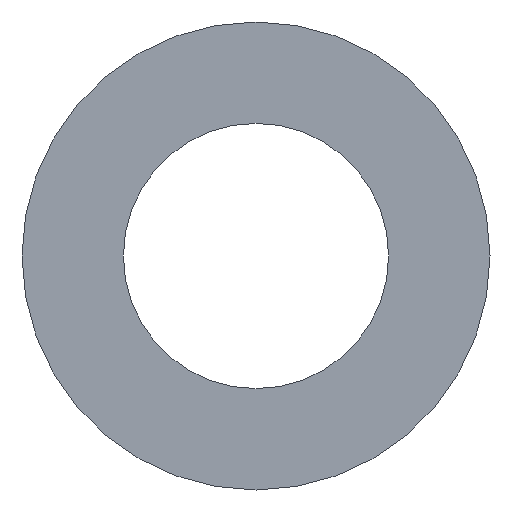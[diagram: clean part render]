
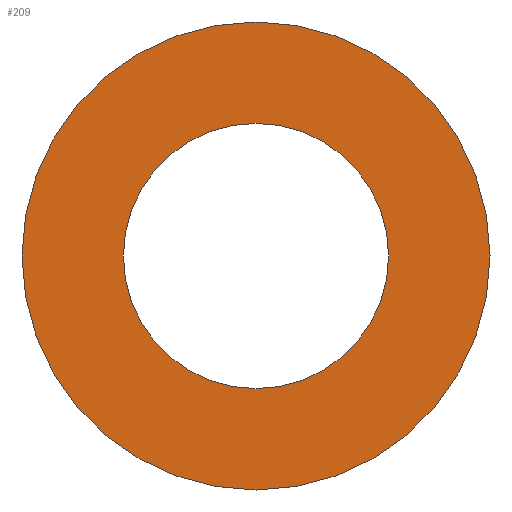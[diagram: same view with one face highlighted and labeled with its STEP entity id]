
A CAD part, front view. The second image highlights one B-rep face of the part: STEP entity #209.
In plain terms, the highlighted planar face has unit normal (0, -1, 0).
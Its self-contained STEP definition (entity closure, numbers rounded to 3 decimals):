
#6 = EDGE_CURVE ( 'NONE', #61, #185, #34, .T. ) ;
#12 = VERTEX_POINT ( 'NONE', #174 ) ;
#22 = DIRECTION ( 'NONE',  ( 0., 0., 1. ) ) ;
#24 = AXIS2_PLACEMENT_3D ( 'NONE', #140, #160, #22 ) ;
#27 = DIRECTION ( 'NONE',  ( 0., -1., 0. ) ) ;
#29 = EDGE_CURVE ( 'NONE', #40, #12, #125, .T. ) ;
#31 = FACE_BOUND ( 'NONE', #96, .T. ) ;
#34 = CIRCLE ( 'NONE', #74, 15. ) ;
#37 = ORIENTED_EDGE ( 'NONE', *, *, #224, .T. ) ;
#40 = VERTEX_POINT ( 'NONE', #86 ) ;
#41 = AXIS2_PLACEMENT_3D ( 'NONE', #210, #232, #114 ) ;
#53 = ORIENTED_EDGE ( 'NONE', *, *, #29, .T. ) ;
#61 = VERTEX_POINT ( 'NONE', #186 ) ;
#68 = AXIS2_PLACEMENT_3D ( 'NONE', #104, #27, #234 ) ;
#70 = CIRCLE ( 'NONE', #98, 15. ) ;
#71 = EDGE_CURVE ( 'NONE', #185, #61, #70, .T. ) ;
#74 = AXIS2_PLACEMENT_3D ( 'NONE', #99, #76, #249 ) ;
#76 = DIRECTION ( 'NONE',  ( 0., 1., 0. ) ) ;
#86 = CARTESIAN_POINT ( 'NONE',  ( 0., -3., -8.5 ) ) ;
#95 = DIRECTION ( 'NONE',  ( 0., 1., 0. ) ) ;
#96 = EDGE_LOOP ( 'NONE', ( #37, #53 ) ) ;
#98 = AXIS2_PLACEMENT_3D ( 'NONE', #229, #95, #176 ) ;
#99 = CARTESIAN_POINT ( 'NONE',  ( 0., -3., 0. ) ) ;
#102 = CIRCLE ( 'NONE', #24, 8.5 ) ;
#104 = CARTESIAN_POINT ( 'NONE',  ( 0., -3., 15. ) ) ;
#107 = FACE_OUTER_BOUND ( 'NONE', #146, .T. ) ;
#114 = DIRECTION ( 'NONE',  ( 0., 0., 1. ) ) ;
#123 = CARTESIAN_POINT ( 'NONE',  ( 0., -3., 15. ) ) ;
#125 = CIRCLE ( 'NONE', #41, 8.5 ) ;
#140 = CARTESIAN_POINT ( 'NONE',  ( 0., -3., 0. ) ) ;
#146 = EDGE_LOOP ( 'NONE', ( #214, #182 ) ) ;
#148 = PLANE ( 'NONE',  #68 ) ;
#160 = DIRECTION ( 'NONE',  ( 0., 1., 0. ) ) ;
#174 = CARTESIAN_POINT ( 'NONE',  ( 0., -3., 8.5 ) ) ;
#176 = DIRECTION ( 'NONE',  ( 0., 0., 1. ) ) ;
#182 = ORIENTED_EDGE ( 'NONE', *, *, #6, .F. ) ;
#185 = VERTEX_POINT ( 'NONE', #123 ) ;
#186 = CARTESIAN_POINT ( 'NONE',  ( 0., -3., -15. ) ) ;
#209 = ADVANCED_FACE ( 'NONE', ( #31, #107 ), #148, .T. ) ;
#210 = CARTESIAN_POINT ( 'NONE',  ( 0., -3., 0. ) ) ;
#214 = ORIENTED_EDGE ( 'NONE', *, *, #71, .F. ) ;
#224 = EDGE_CURVE ( 'NONE', #12, #40, #102, .T. ) ;
#229 = CARTESIAN_POINT ( 'NONE',  ( 0., -3., 0. ) ) ;
#232 = DIRECTION ( 'NONE',  ( 0., 1., 0. ) ) ;
#234 = DIRECTION ( 'NONE',  ( 0., 0., -1. ) ) ;
#249 = DIRECTION ( 'NONE',  ( 0., 0., 1. ) ) ;
